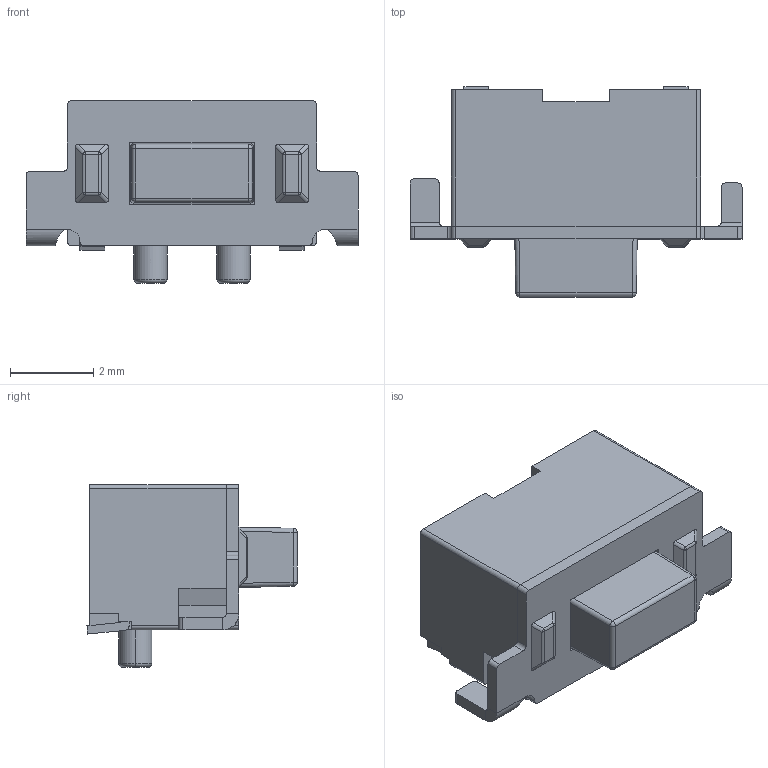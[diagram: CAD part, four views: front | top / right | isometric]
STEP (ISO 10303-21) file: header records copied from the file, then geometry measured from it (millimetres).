
FILE_DESCRIPTION((''),'2;1');
FILE_NAME('JQD3580-C0501-ADG-1-101_ASM','2026-05-21T19:42:11',('Admin'),(''),'CREO PARAMETRIC BY PTC INC, 2019224','CREO PARAMETRIC BY PTC INC, 2019224','');
FILE_SCHEMA(('AUTOMOTIVE_DESIGN { 1 0 10303 214 1 1 1 1 }'));
Length unit declared in the file: millimetre
Products named in the file (3): JQD3580-C0501-ADG-1-101_01; JQD3580-C0501-ADG-1-101_02; JQD3580-C0501-ADG-1-101_ASM
Assembly tree (2 placements, depth 2):
  JQD3580-C0501-ADG-1-101_ASM
    JQD3580-C0501-ADG-1-101_01
    JQD3580-C0501-ADG-1-101_02
Bounding box: 8 x 5.07 x 4.4 mm (x, y, z)
Volume: 81.1 mm3; surface area: 184 mm2
Topology: 2 solids, 2 shells, 175 faces, 432 edges, 272 vertices
Faces by surface type: plane 105, cylinder 52, sphere 12, torus 4, bspline 2
Entity records: 6750 total; most frequent: CARTESIAN_POINT 1141, DIRECTION 880, ORIENTED_EDGE 860, EDGE_CURVE 430, PRESENTATION_STYLE_ASSIGNMENT 321, VECTOR 316, LINE 316, STYLED_ITEM 290
